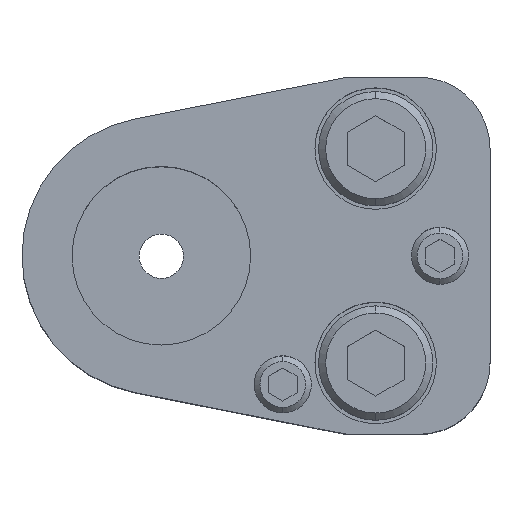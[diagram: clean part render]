
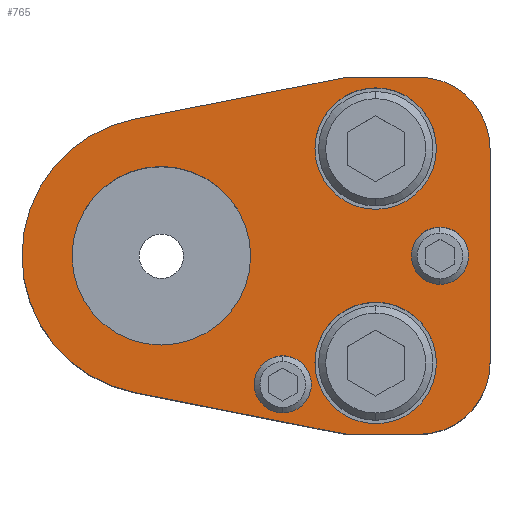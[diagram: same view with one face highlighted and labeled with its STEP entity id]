
A CAD part, top view. The second image highlights one B-rep face of the part: STEP entity #765.
In plain terms, the highlighted planar face has unit normal (0, 0, 1).
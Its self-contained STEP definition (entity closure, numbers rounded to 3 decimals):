
#144=FACE_BOUND('',#1151,.T.);
#145=FACE_BOUND('',#1152,.T.);
#146=FACE_BOUND('',#1153,.T.);
#147=FACE_BOUND('',#1154,.T.);
#148=FACE_BOUND('',#1155,.T.);
#149=FACE_BOUND('',#1156,.T.);
#352=LINE('',#4212,#556);
#357=LINE('',#4227,#561);
#360=LINE('',#4233,#564);
#365=LINE('',#4246,#569);
#377=LINE('',#4305,#581);
#384=LINE('',#4326,#588);
#556=VECTOR('',#3390,1.);
#561=VECTOR('',#3403,1.);
#564=VECTOR('',#3408,1.);
#569=VECTOR('',#3421,1.);
#581=VECTOR('',#3487,1.);
#588=VECTOR('',#3506,1.);
#765=ADVANCED_FACE('',(#144,#145,#146,#147,#148,#149),#863,.T.);
#863=PLANE('',#2873);
#1151=EDGE_LOOP('',(#1689,#1690,#1691,#1692,#1693,#1694,#1695,#1696,#1697));
#1152=EDGE_LOOP('',(#1698,#1699));
#1153=EDGE_LOOP('',(#1700,#1701));
#1154=EDGE_LOOP('',(#1702,#1703));
#1155=EDGE_LOOP('',(#1704,#1705));
#1156=EDGE_LOOP('',(#1706,#1707));
#1689=ORIENTED_EDGE('',*,*,#2341,.T.);
#1690=ORIENTED_EDGE('',*,*,#2345,.T.);
#1691=ORIENTED_EDGE('',*,*,#2348,.T.);
#1692=ORIENTED_EDGE('',*,*,#2386,.T.);
#1693=ORIENTED_EDGE('',*,*,#2400,.T.);
#1694=ORIENTED_EDGE('',*,*,#2397,.T.);
#1695=ORIENTED_EDGE('',*,*,#2351,.T.);
#1696=ORIENTED_EDGE('',*,*,#2355,.T.);
#1697=ORIENTED_EDGE('',*,*,#2358,.T.);
#1698=ORIENTED_EDGE('',*,*,#2404,.F.);
#1699=ORIENTED_EDGE('',*,*,#2405,.F.);
#1700=ORIENTED_EDGE('',*,*,#2406,.F.);
#1701=ORIENTED_EDGE('',*,*,#2407,.F.);
#1702=ORIENTED_EDGE('',*,*,#2381,.F.);
#1703=ORIENTED_EDGE('',*,*,#2377,.F.);
#1704=ORIENTED_EDGE('',*,*,#2375,.F.);
#1705=ORIENTED_EDGE('',*,*,#2371,.F.);
#1706=ORIENTED_EDGE('',*,*,#2408,.T.);
#1707=ORIENTED_EDGE('',*,*,#2409,.T.);
#2045=VERTEX_POINT('',#4211);
#2046=VERTEX_POINT('',#4213);
#2049=VERTEX_POINT('',#4220);
#2051=VERTEX_POINT('',#4226);
#2053=VERTEX_POINT('',#4232);
#2054=VERTEX_POINT('',#4234);
#2057=VERTEX_POINT('',#4241);
#2066=VERTEX_POINT('',#4273);
#2067=VERTEX_POINT('',#4274);
#2070=VERTEX_POINT('',#4286);
#2071=VERTEX_POINT('',#4287);
#2077=VERTEX_POINT('',#4304);
#2086=VERTEX_POINT('',#4327);
#2089=VERTEX_POINT('',#4345);
#2090=VERTEX_POINT('',#4346);
#2091=VERTEX_POINT('',#4349);
#2092=VERTEX_POINT('',#4350);
#2093=VERTEX_POINT('',#4353);
#2094=VERTEX_POINT('',#4354);
#2341=EDGE_CURVE('',#2046,#2045,#352,.T.);
#2345=EDGE_CURVE('',#2045,#2049,#2589,.T.);
#2348=EDGE_CURVE('',#2049,#2051,#357,.T.);
#2351=EDGE_CURVE('',#2054,#2053,#360,.T.);
#2355=EDGE_CURVE('',#2053,#2057,#2591,.T.);
#2358=EDGE_CURVE('',#2057,#2046,#365,.T.);
#2371=EDGE_CURVE('',#2066,#2067,#2601,.T.);
#2375=EDGE_CURVE('',#2067,#2066,#2603,.T.);
#2377=EDGE_CURVE('',#2070,#2071,#2605,.T.);
#2381=EDGE_CURVE('',#2071,#2070,#2607,.T.);
#2386=EDGE_CURVE('',#2051,#2077,#377,.T.);
#2397=EDGE_CURVE('',#2086,#2054,#384,.T.);
#2400=EDGE_CURVE('',#2077,#2086,#2614,.T.);
#2404=EDGE_CURVE('',#2089,#2090,#2615,.T.);
#2405=EDGE_CURVE('',#2090,#2089,#2616,.T.);
#2406=EDGE_CURVE('',#2091,#2092,#2617,.T.);
#2407=EDGE_CURVE('',#2092,#2091,#2618,.T.);
#2408=EDGE_CURVE('',#2093,#2094,#2619,.T.);
#2409=EDGE_CURVE('',#2094,#2093,#2620,.T.);
#2589=CIRCLE('',#2821,10.);
#2591=CIRCLE('',#2826,10.);
#2601=CIRCLE('',#2842,8.5);
#2603=CIRCLE('',#2845,8.5);
#2605=CIRCLE('',#2849,8.5);
#2607=CIRCLE('',#2852,8.5);
#2614=CIRCLE('',#2864,19.5);
#2615=CIRCLE('',#2867,4.);
#2616=CIRCLE('',#2868,4.);
#2617=CIRCLE('',#2869,4.);
#2618=CIRCLE('',#2870,4.);
#2619=CIRCLE('',#2871,12.5);
#2620=CIRCLE('',#2872,12.5);
#2821=AXIS2_PLACEMENT_3D('',#4221,#3396,#3397);
#2826=AXIS2_PLACEMENT_3D('',#4242,#3414,#3415);
#2842=AXIS2_PLACEMENT_3D('',#4272,#3452,#3453);
#2845=AXIS2_PLACEMENT_3D('',#4281,#3460,#3461);
#2849=AXIS2_PLACEMENT_3D('',#4285,#3468,#3469);
#2852=AXIS2_PLACEMENT_3D('',#4294,#3476,#3477);
#2864=AXIS2_PLACEMENT_3D('',#4331,#3512,#3513);
#2867=AXIS2_PLACEMENT_3D('',#4344,#3520,#3521);
#2868=AXIS2_PLACEMENT_3D('',#4347,#3522,#3523);
#2869=AXIS2_PLACEMENT_3D('',#4348,#3524,#3525);
#2870=AXIS2_PLACEMENT_3D('',#4351,#3526,#3527);
#2871=AXIS2_PLACEMENT_3D('',#4352,#3528,#3529);
#2872=AXIS2_PLACEMENT_3D('',#4355,#3530,#3531);
#2873=AXIS2_PLACEMENT_3D('',#4356,#3532,#3533);
#3390=DIRECTION('',(0.,1.,0.));
#3396=DIRECTION('',(0.,0.,1.));
#3397=DIRECTION('',(-0.707,-0.707,0.));
#3403=DIRECTION('',(-1.,0.,0.));
#3408=DIRECTION('',(1.,0.,0.));
#3414=DIRECTION('',(0.,0.,1.));
#3415=DIRECTION('',(-0.707,0.707,0.));
#3421=DIRECTION('',(0.,1.,0.));
#3452=DIRECTION('',(0.,0.,1.));
#3453=DIRECTION('',(-1.,0.,0.));
#3460=DIRECTION('',(0.,0.,1.));
#3461=DIRECTION('',(1.,0.,0.));
#3468=DIRECTION('',(0.,0.,1.));
#3469=DIRECTION('',(-1.,0.,0.));
#3476=DIRECTION('',(0.,0.,1.));
#3477=DIRECTION('',(1.,0.,0.));
#3487=DIRECTION('',(-0.981,-0.193,0.));
#3506=DIRECTION('',(0.981,-0.193,0.));
#3512=DIRECTION('',(0.,0.,1.));
#3513=DIRECTION('',(1.,0.,0.));
#3520=DIRECTION('',(0.,0.,1.));
#3521=DIRECTION('',(1.,0.,0.));
#3522=DIRECTION('',(0.,0.,1.));
#3523=DIRECTION('',(-1.,0.,0.));
#3524=DIRECTION('',(0.,0.,1.));
#3525=DIRECTION('',(1.,0.,0.));
#3526=DIRECTION('',(0.,0.,1.));
#3527=DIRECTION('',(-1.,0.,0.));
#3528=DIRECTION('',(0.,0.,-1.));
#3529=DIRECTION('',(-1.,0.,0.));
#3530=DIRECTION('',(0.,0.,-1.));
#3531=DIRECTION('',(1.,0.,0.));
#3532=DIRECTION('',(0.,0.,1.));
#3533=DIRECTION('',(0.,-1.,0.));
#4211=CARTESIAN_POINT('',(46.,15.,40.));
#4212=CARTESIAN_POINT('',(46.,15.,40.));
#4213=CARTESIAN_POINT('',(46.,0.,40.));
#4220=CARTESIAN_POINT('',(36.,25.,40.));
#4221=CARTESIAN_POINT('',(36.,15.,40.));
#4226=CARTESIAN_POINT('',(26.,25.,40.));
#4227=CARTESIAN_POINT('',(26.,25.,40.));
#4232=CARTESIAN_POINT('',(36.,-25.,40.));
#4233=CARTESIAN_POINT('',(26.,-25.,40.));
#4234=CARTESIAN_POINT('',(26.,-25.,40.));
#4241=CARTESIAN_POINT('',(46.,-15.,40.));
#4242=CARTESIAN_POINT('',(36.,-15.,40.));
#4246=CARTESIAN_POINT('',(46.,-15.,40.));
#4272=CARTESIAN_POINT('',(30.,-15.,40.));
#4273=CARTESIAN_POINT('',(30.,-23.5,40.));
#4274=CARTESIAN_POINT('',(30.,-6.5,40.));
#4281=CARTESIAN_POINT('',(30.,-15.,40.));
#4285=CARTESIAN_POINT('',(30.,15.,40.));
#4286=CARTESIAN_POINT('',(30.,6.5,40.));
#4287=CARTESIAN_POINT('',(30.,23.5,40.));
#4294=CARTESIAN_POINT('',(30.,15.,40.));
#4304=CARTESIAN_POINT('',(-3.771,19.132,40.));
#4305=CARTESIAN_POINT('',(26.,25.,40.));
#4326=CARTESIAN_POINT('',(26.,-25.,40.));
#4327=CARTESIAN_POINT('',(-3.771,-19.132,40.));
#4331=CARTESIAN_POINT('',(0.,0.,40.));
#4344=CARTESIAN_POINT('',(39.,0.,40.));
#4345=CARTESIAN_POINT('',(39.,4.,40.));
#4346=CARTESIAN_POINT('',(39.,-4.,40.));
#4347=CARTESIAN_POINT('',(39.,0.,40.));
#4348=CARTESIAN_POINT('',(17.,-18.,40.));
#4349=CARTESIAN_POINT('',(17.,-14.,40.));
#4350=CARTESIAN_POINT('',(17.,-22.,40.));
#4351=CARTESIAN_POINT('',(17.,-18.,40.));
#4352=CARTESIAN_POINT('',(0.,0.,40.));
#4353=CARTESIAN_POINT('',(0.,12.5,40.));
#4354=CARTESIAN_POINT('',(0.,-12.5,40.));
#4355=CARTESIAN_POINT('',(0.,0.,40.));
#4356=CARTESIAN_POINT('',(46.,0.,40.));
